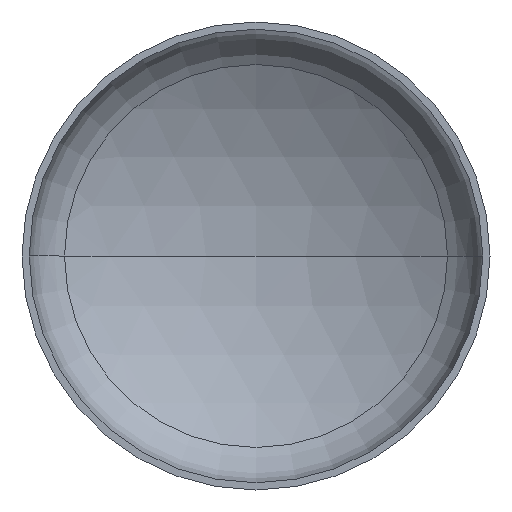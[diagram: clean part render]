
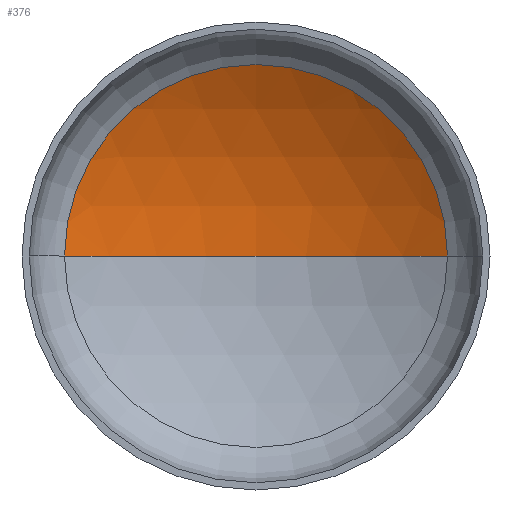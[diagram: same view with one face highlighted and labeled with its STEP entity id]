
A CAD part, front view. The second image highlights one B-rep face of the part: STEP entity #376.
In plain terms, the highlighted spherical face has radius 2880 mm.
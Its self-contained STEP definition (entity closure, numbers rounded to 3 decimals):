
#9 = DIRECTION ( 'NONE',  ( -1., 0., 0. ) ) ;
#18 = EDGE_LOOP ( 'NONE', ( #43, #163, #131 ) ) ;
#19 = DIRECTION ( 'NONE',  ( 0., 0., -1. ) ) ;
#20 = VERTEX_POINT ( 'NONE', #292 ) ;
#26 = CARTESIAN_POINT ( 'NONE',  ( 0., -1877.975, 0. ) ) ;
#38 = AXIS2_PLACEMENT_3D ( 'NONE', #185, #204, #205 ) ;
#39 = AXIS2_PLACEMENT_3D ( 'NONE', #26, #19, #9 ) ;
#41 = AXIS2_PLACEMENT_3D ( 'NONE', #212, #208, #209 ) ;
#43 = ORIENTED_EDGE ( 'NONE', *, *, #148, .F. ) ;
#91 = VERTEX_POINT ( 'NONE', #246 ) ;
#95 = EDGE_CURVE ( 'NONE', #123, #20, #213, .T. ) ;
#123 = VERTEX_POINT ( 'NONE', #198 ) ;
#128 = EDGE_CURVE ( 'NONE', #91, #123, #389, .T. ) ;
#131 = ORIENTED_EDGE ( 'NONE', *, *, #95, .T. ) ;
#138 = CIRCLE ( 'NONE', #38, 2880. ) ;
#143 = DIRECTION ( 'NONE',  ( -1., 0., 0. ) ) ;
#148 = EDGE_CURVE ( 'NONE', #91, #20, #138, .T. ) ;
#163 = ORIENTED_EDGE ( 'NONE', *, *, #128, .T. ) ;
#185 = CARTESIAN_POINT ( 'NONE',  ( 0., -1877.975, 0. ) ) ;
#198 = CARTESIAN_POINT ( 'NONE',  ( 1472.826, 596.936, 0. ) ) ;
#204 = DIRECTION ( 'NONE',  ( 0., 0., 1. ) ) ;
#205 = DIRECTION ( 'NONE',  ( 1., 0., 0. ) ) ;
#208 = DIRECTION ( 'NONE',  ( 0., -1., 0. ) ) ;
#209 = DIRECTION ( 'NONE',  ( 1., 0., 0. ) ) ;
#212 = CARTESIAN_POINT ( 'NONE',  ( 0., 596.936, 0. ) ) ;
#213 = CIRCLE ( 'NONE', #41, 1472.826 ) ;
#215 = FACE_OUTER_BOUND ( 'NONE', #18, .T. ) ;
#246 = CARTESIAN_POINT ( 'NONE',  ( 0., 1002.025, 0. ) ) ;
#285 = DIRECTION ( 'NONE',  ( 0., 0., -1. ) ) ;
#292 = CARTESIAN_POINT ( 'NONE',  ( -1472.826, 596.936, 0. ) ) ;
#356 = AXIS2_PLACEMENT_3D ( 'NONE', #360, #285, #143 ) ;
#360 = CARTESIAN_POINT ( 'NONE',  ( 0., -1877.975, 0. ) ) ;
#376 = ADVANCED_FACE ( 'NONE', ( #215 ), #400, .F. ) ;
#389 = CIRCLE ( 'NONE', #39, 2880. ) ;
#400 = SPHERICAL_SURFACE ( 'NONE', #356, 2880. ) ;
